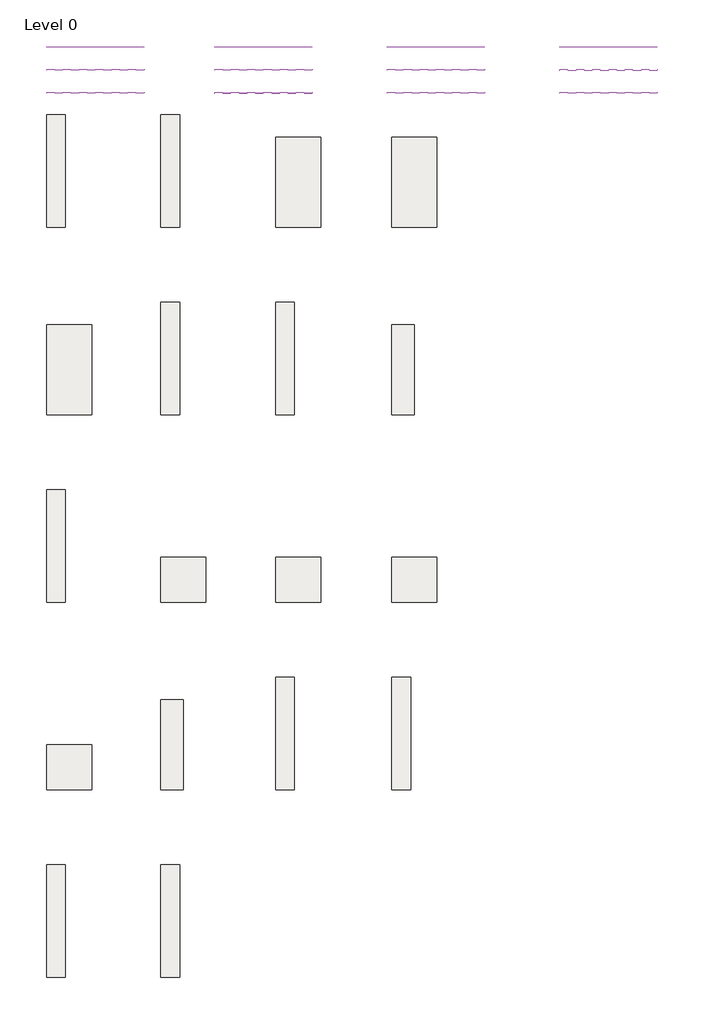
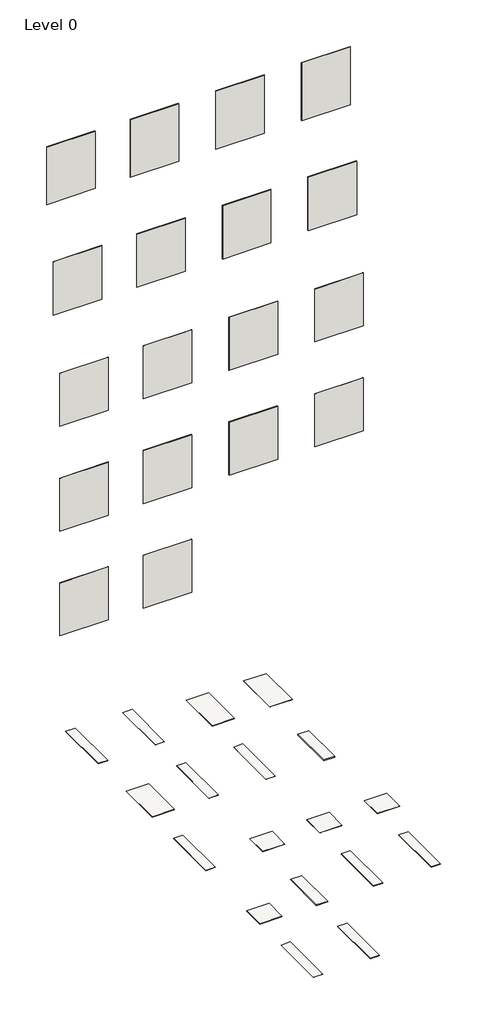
# One storey: 18 slabs, 18 walls.
"""IFC4 building model written with IfcOpenShell, lengths in millimetres."""

from ifc_helpers import new_model, si_unit, frame, origin, place, context, project, spatial, polyline, outline, extrude, element, save

model = new_model("IFC4")

# Units and contexts
model_context = context("Model", 3, world=origin())
ifc_project = project(units=[si_unit("LENGTHUNIT", "METRE", prefix="MILLI")], contexts=[model_context])

# Site, building, storey
site = spatial("IfcSite", under=ifc_project)
building = spatial("IfcBuilding", under=site)
storey = spatial("IfcBuildingStorey", under=building, Name="Level 0", Elevation=0.0)

# Slabs
placement = place(None, origin())
element("IfcSlab", 1, ObjectType="Floor_Tiles_Refin-Eik-Almond-25x150 RJ96", at=placement, inside=storey, context=model_context, shape_type="SweptSolid", body=[
    extrude(outline(polyline([(6624.3752062, 7239.4623743), (6624.3752062, 5739.4623743), (6374.3752062, 5739.4623743), (6374.3752062, 7239.4623743), (6624.3752062, 7239.4623743)])), frame((0.0, 0.0, -10.0), z_axis=(0.0, 0.0, 1.0), x_axis=(1.0, 0.0, 0.0)), (0.0, 0.0, 1.0), 10.0),
])
element("IfcSlab", 2, ObjectType="Floor_Tiles_Refin-Eik-Ash-25x150 RJ97", at=placement, inside=storey, context=model_context, shape_type="SweptSolid", body=[
    extrude(outline(polyline([(8147.3924055, 7238.4192064), (8147.3924055, 5738.4192064), (7897.3924055, 5738.4192064), (7897.3924055, 7238.4192064), (8147.3924055, 7238.4192064)])), frame((0.0, 0.0, -10.0), z_axis=(0.0, 0.0, 1.0), x_axis=(1.0, 0.0, 0.0)), (0.0, 0.0, 1.0), 10.0),
])
element("IfcSlab", 3, ObjectType="Floor_Tiles_Refin-Eik-Cannè-Almond-60x120 RK81", at=placement, inside=storey, context=model_context, shape_type="SweptSolid", body=[
    extrude(outline(polyline([(10027.1861419, 6939.4623743), (10027.1861419, 5739.4623743), (9427.1861419, 5739.4623743), (9427.1861419, 6939.4623743), (10027.1861419, 6939.4623743)])), frame((0.0, 0.0, -10.0), z_axis=(0.0, 0.0, 1.0), x_axis=(1.0, 0.0, 0.0)), (0.0, 0.0, 1.0), 10.0),
])
element("IfcSlab", 4, ObjectType="Floor_Tiles_Refin-Eik-Cannè-Honey-60x120 RK82", at=placement, inside=storey, context=model_context, shape_type="SweptSolid", body=[
    extrude(outline(polyline([(11576.9798783, 6939.4623743), (11576.9798783, 5739.4623743), (10976.9798783, 5739.4623743), (10976.9798783, 6939.4623743), (11576.9798783, 6939.4623743)])), frame((0.0, 0.0, -10.0), z_axis=(0.0, 0.0, 1.0), x_axis=(1.0, 0.0, 0.0)), (0.0, 0.0, 1.0), 10.0),
])
element("IfcSlab", 5, ObjectType="Floor_Tiles_Refin-Eik-Cannè-Natural-60x120 RK83", at=placement, inside=storey, context=model_context, shape_type="SweptSolid", body=[
    extrude(outline(polyline([(6974.3752062, 4439.4623743), (6974.3752062, 3239.4623743), (6374.3752062, 3239.4623743), (6374.3752062, 4439.4623743), (6974.3752062, 4439.4623743)])), frame((0.0, 0.0, -10.0), z_axis=(0.0, 0.0, 1.0), x_axis=(1.0, 0.0, 0.0)), (0.0, 0.0, 1.0), 10.0),
])
element("IfcSlab", 6, ObjectType="Floor_Tiles_Refin-Eik-Choco-25x150 RJ98", at=placement, inside=storey, context=model_context, shape_type="SweptSolid", body=[
    extrude(outline(polyline([(8147.3924055, 4739.4623743), (8147.3924055, 3239.4623743), (7897.3924055, 3239.4623743), (7897.3924055, 4739.4623743), (8147.3924055, 4739.4623743)])), frame((0.0, 0.0, -10.0), z_axis=(0.0, 0.0, 1.0), x_axis=(1.0, 0.0, 0.0)), (0.0, 0.0, 1.0), 10.0),
])
element("IfcSlab", 7, ObjectType="Floor_Tiles_Refin-Eik-Coffee-25x150 RJ99", at=placement, inside=storey, context=model_context, shape_type="SweptSolid", body=[
    extrude(outline(polyline([(9677.1861419, 4739.4623743), (9677.1861419, 3239.4623743), (9427.1861419, 3239.4623743), (9427.1861419, 4739.4623743), (9677.1861419, 4739.4623743)])), frame((0.0, 0.0, -10.0), z_axis=(0.0, 0.0, 1.0), x_axis=(1.0, 0.0, 0.0)), (0.0, 0.0, 1.0), 10.0),
])
element("IfcSlab", 8, ObjectType="Floor_Tiles_Refin-Eik-Honey-OUT2.0-30x120 RN20", at=placement, inside=storey, context=model_context, shape_type="SweptSolid", body=[
    extrude(outline(polyline([(11276.9798783, 4439.4623743), (11276.9798783, 3239.4623743), (10976.9798783, 3239.4623743), (10976.9798783, 4439.4623743), (11276.9798783, 4439.4623743)])), frame((0.0, 0.0, -21.0), z_axis=(0.0, 0.0, 1.0), x_axis=(1.0, 0.0, 0.0)), (0.0, 0.0, 1.0), 21.0),
])
element("IfcSlab", 9, ObjectType="Floor_Tiles_Refin-Eik-Honey-25x150 RK00", at=placement, inside=storey, context=model_context, shape_type="SweptSolid", body=[
    extrude(outline(polyline([(6624.3752062, 2239.4623743), (6624.3752062, 739.4623743), (6374.3752062, 739.4623743), (6374.3752062, 2239.4623743), (6624.3752062, 2239.4623743)])), frame((0.0, 0.0, -10.0), z_axis=(0.0, 0.0, 1.0), x_axis=(1.0, 0.0, 0.0)), (0.0, 0.0, 1.0), 10.0),
])
element("IfcSlab", 10, ObjectType="Floor_Tiles_Refin-Eik-Leaf-Almond-60x60 RL61", at=placement, inside=storey, context=model_context, shape_type="SweptSolid", body=[
    extrude(outline(polyline([(8497.3924055, 1339.4623743), (8497.3924055, 739.4623743), (7897.3924055, 739.4623743), (7897.3924055, 1339.4623743), (8497.3924055, 1339.4623743)])), frame((0.0, 0.0, -10.0), z_axis=(0.0, 0.0, 1.0), x_axis=(1.0, 0.0, 0.0)), (0.0, 0.0, 1.0), 10.0),
])
element("IfcSlab", 11, ObjectType="Floor_Tiles_Refin-Eik-Leaf-Honey-60x60 RL62", at=placement, inside=storey, context=model_context, shape_type="SweptSolid", body=[
    extrude(outline(polyline([(10027.1861419, 1339.4623743), (10027.1861419, 739.4623743), (9427.1861419, 739.4623743), (9427.1861419, 1339.4623743), (10027.1861419, 1339.4623743)])), frame((0.0, 0.0, -10.0), z_axis=(0.0, 0.0, 1.0), x_axis=(1.0, 0.0, 0.0)), (0.0, 0.0, 1.0), 10.0),
])
element("IfcSlab", 12, ObjectType="Floor_Tiles_Refin-Eik-Leaf-Natural-60x60 RL63", at=placement, inside=storey, context=model_context, shape_type="SweptSolid", body=[
    extrude(outline(polyline([(11576.9798783, 1339.4623743), (11576.9798783, 739.4623743), (10976.9798783, 739.4623743), (10976.9798783, 1339.4623743), (11576.9798783, 1339.4623743)])), frame((0.0, 0.0, -10.0), z_axis=(0.0, 0.0, 1.0), x_axis=(1.0, 0.0, 0.0)), (0.0, 0.0, 1.0), 10.0),
])
element("IfcSlab", 13, ObjectType="Floor_Tiles_Refin-Eik-Leaf-Nut-60x60 RL64", at=placement, inside=storey, context=model_context, shape_type="SweptSolid", body=[
    extrude(outline(polyline([(6974.3752062, -1160.5376257), (6974.3752062, -1760.5376257), (6374.3752062, -1760.5376257), (6374.3752062, -1160.5376257), (6974.3752062, -1160.5376257)])), frame((0.0, 0.0, -10.0), z_axis=(0.0, 0.0, 1.0), x_axis=(1.0, 0.0, 0.0)), (0.0, 0.0, 1.0), 10.0),
])
element("IfcSlab", 14, ObjectType="Floor_Tiles_Refin-Eik-Natural-OUT2.0-30x120 RN21", at=placement, inside=storey, context=model_context, shape_type="SweptSolid", body=[
    extrude(outline(polyline([(8197.3924055, -560.5376257), (8197.3924055, -1760.5376257), (7897.3924055, -1760.5376257), (7897.3924055, -560.5376257), (8197.3924055, -560.5376257)])), frame((0.0, 0.0, -21.0), z_axis=(0.0, 0.0, 1.0), x_axis=(1.0, 0.0, 0.0)), (0.0, 0.0, 1.0), 21.0),
])
element("IfcSlab", 15, ObjectType="Floor_Tiles_Refin-Eik-Natural-25x150 RK01", at=placement, inside=storey, context=model_context, shape_type="SweptSolid", body=[
    extrude(outline(polyline([(9677.1861419, -260.5376257), (9677.1861419, -1760.5376257), (9427.1861419, -1760.5376257), (9427.1861419, -260.5376257), (9677.1861419, -260.5376257)])), frame((0.0, 0.0, -10.0), z_axis=(0.0, 0.0, 1.0), x_axis=(1.0, 0.0, 0.0)), (0.0, 0.0, 1.0), 10.0),
])
element("IfcSlab", 16, ObjectType="Floor_Tiles_Refin-Eik-Nut-25x150 RK02", at=placement, inside=storey, context=model_context, shape_type="SweptSolid", body=[
    extrude(outline(polyline([(11226.9798783, -260.5376257), (11226.9798783, -1760.5376257), (10976.9798783, -1760.5376257), (10976.9798783, -260.5376257), (11226.9798783, -260.5376257)])), frame((0.0, 0.0, -10.0), z_axis=(0.0, 0.0, 1.0), x_axis=(1.0, 0.0, 0.0)), (0.0, 0.0, 1.0), 10.0),
])
element("IfcSlab", 17, ObjectType="Floor_Tiles_Refin-Eik-Rice-25x150 RK03", at=placement, inside=storey, context=model_context, shape_type="SweptSolid", body=[
    extrude(outline(polyline([(6624.3752062, -2760.5376257), (6624.3752062, -4260.5376257), (6374.3752062, -4260.5376257), (6374.3752062, -2760.5376257), (6624.3752062, -2760.5376257)])), frame((0.0, 0.0, -10.0), z_axis=(0.0, 0.0, 1.0), x_axis=(1.0, 0.0, 0.0)), (0.0, 0.0, 1.0), 10.0),
])
element("IfcSlab", 18, ObjectType="Floor_Tiles_Refin-Eik-Sand-25x150 RK04", at=placement, inside=storey, context=model_context, shape_type="SweptSolid", body=[
    extrude(outline(polyline([(8147.3924055, -2760.5376257), (8147.3924055, -4260.5376257), (7897.3924055, -4260.5376257), (7897.3924055, -2760.5376257), (8147.3924055, -2760.5376257)])), frame((0.0, 0.0, -10.0), z_axis=(0.0, 0.0, 1.0), x_axis=(1.0, 0.0, 0.0)), (0.0, 0.0, 1.0), 10.0),
])

# Walls
element("IfcWall", 19, ObjectType="Wall_Tiles_Refin-Eik-Ash-25x150 RJ97", at=placement, inside=storey, context=model_context, shape_type="SweptSolid", body=[
    extrude(outline(polyline([(9914.3752062, 8132.3838631), (8614.3752062, 8132.3838631), (8614.3752062, 8142.3838631), (9914.3752062, 8142.3838631), (9914.3752062, 8132.3838631)])), frame((0.0, 0.0, 14387.6770443), z_axis=(0.0, 0.0, 1.0), x_axis=(1.0, 0.0, 0.0)), (0.0, 0.0, 1.0), 1641.7417352),
])
element("IfcWall", 20, ObjectType="Wall_Tiles_Refin-Eik-Canné-Almond-60x120 RK81", at=placement, inside=storey, context=model_context, shape_type="SweptSolid", body=[
    extrude(outline(polyline([(12214.3752062, 8132.3838631), (10914.3752062, 8132.3838631), (10914.3752062, 8142.3838631), (12214.3752062, 8142.3838631), (12214.3752062, 8132.3838631)])), frame((0.0, 0.0, 14387.6770443), z_axis=(0.0, 0.0, 1.0), x_axis=(1.0, 0.0, 0.0)), (0.0, 0.0, 1.0), 1641.7417352),
])
element("IfcWall", 21, ObjectType="Wall_Tiles_Refin-Eik-Almond-25x150 RJ96", at=placement, inside=storey, context=model_context, shape_type="SweptSolid", body=[
    extrude(outline(polyline([(7674.3752062, 8132.3838631), (6374.3752062, 8132.3838631), (6374.3752062, 8142.3838631), (7674.3752062, 8142.3838631), (7674.3752062, 8132.3838631)])), frame((0.0, 0.0, 14403.7267346), z_axis=(0.0, 0.0, 1.0), x_axis=(1.0, 0.0, 0.0)), (0.0, 0.0, 1.0), 1625.692045),
])
element("IfcWall", 22, ObjectType="Wall_Tiles_Refin-Eik-Canné-Natural-60x120 RK83", at=placement, inside=storey, context=model_context, shape_type="SweptSolid", body=[
    extrude(outline(polyline([(7674.3752062, 7827.3838631), (6374.3752062, 7827.3838631), (6374.3752062, 7837.3838631), (7674.3752062, 7837.3838631), (7674.3752062, 7827.3838631)])), frame((0.0, 0.0, 11452.5436262), z_axis=(0.0, 0.0, 1.0), x_axis=(1.0, 0.0, 0.0)), (0.0, 0.0, 1.0), 1513.1985566),
])
element("IfcWall", 23, ObjectType="Wall_Tiles_Refin-Eik-Choco-25x150 RJ98", at=placement, inside=storey, context=model_context, shape_type="SweptSolid", body=[
    extrude(outline(polyline([(9914.3752062, 7827.3838631), (8614.3752062, 7827.3838631), (8614.3752062, 7837.3838631), (9914.3752062, 7837.3838631), (9914.3752062, 7827.3838631)])), frame((0.0, 0.0, 11452.5436262), z_axis=(0.0, 0.0, 1.0), x_axis=(1.0, 0.0, 0.0)), (0.0, 0.0, 1.0), 1513.1985566),
])
element("IfcWall", 24, ObjectType="Wall_Tiles_Refin-Eik-Coffee-25x150 RJ99", at=placement, inside=storey, context=model_context, shape_type="SweptSolid", body=[
    extrude(outline(polyline([(12214.3752062, 7827.3838631), (10914.3752062, 7827.3838631), (10914.3752062, 7837.3838631), (12214.3752062, 7837.3838631), (12214.3752062, 7827.3838631)])), frame((0.0, 0.0, 11452.5436262), z_axis=(0.0, 0.0, 1.0), x_axis=(1.0, 0.0, 0.0)), (0.0, 0.0, 1.0), 1513.1985566),
])
element("IfcWall", 25, ObjectType="Wall_Tiles_Refin-Eik-Honey-25x150 RK00", at=placement, inside=storey, context=model_context, shape_type="SweptSolid", body=[
    extrude(outline(polyline([(7674.3752062, 7522.3838631), (6374.3752062, 7522.3838631), (6374.3752062, 7532.3838631), (7674.3752062, 7532.3838631), (7674.3752062, 7522.3838631)])), frame((0.0, 0.0, 8479.1027214), z_axis=(0.0, 0.0, 1.0), x_axis=(1.0, 0.0, 0.0)), (0.0, 0.0, 1.0), 1502.5740159),
])
element("IfcWall", 26, ObjectType="Wall_Tiles_Refin-Eik-Honey-OUT2.0-30x120 RN20", at=placement, inside=storey, context=model_context, shape_type="SweptSolid", body=[
    extrude(outline(polyline([(14514.3752062, 7821.8838631), (13214.3752062, 7821.8838631), (13214.3752062, 7842.8838631), (14514.3752062, 7842.8838631), (14514.3752062, 7821.8838631)])), frame((0.0, 0.0, 11452.5436262), z_axis=(0.0, 0.0, 1.0), x_axis=(1.0, 0.0, 0.0)), (0.0, 0.0, 1.0), 1513.1985566),
])
element("IfcWall", 27, ObjectType="Wall_Tiles_Refin-Eik-Canné-Honey-60x120 RK82", at=placement, inside=storey, context=model_context, shape_type="SweptSolid", body=[
    extrude(outline(polyline([(14514.3752062, 8132.3838631), (13214.3752062, 8132.3838631), (13214.3752062, 8142.3838631), (14514.3752062, 8142.3838631), (14514.3752062, 8132.3838631)])), frame((0.0, 0.0, 14387.6770443), z_axis=(0.0, 0.0, 1.0), x_axis=(1.0, 0.0, 0.0)), (0.0, 0.0, 1.0), 1641.7417352),
])
element("IfcWall", 28, ObjectType="Wall_Tiles_Refin-Eik-Leaf-Almond-60x60 RL61", at=placement, inside=storey, context=model_context, shape_type="SweptSolid", body=[
    extrude(outline(polyline([(9914.3752062, 7522.3838631), (8614.3752062, 7522.3838631), (8614.3752062, 7532.3838631), (9914.3752062, 7532.3838631), (9914.3752062, 7522.3838631)])), frame((0.0, 0.0, 8479.1027214), z_axis=(0.0, 0.0, 1.0), x_axis=(1.0, 0.0, 0.0)), (0.0, 0.0, 1.0), 1502.5740159),
])
element("IfcWall", 29, ObjectType="Wall_Tiles_Refin-Eik-Leaf-Honey-60x60 RL62", at=placement, inside=storey, context=model_context, shape_type="SweptSolid", body=[
    extrude(outline(polyline([(12214.3752062, 7522.3838631), (10914.3752062, 7522.3838631), (10914.3752062, 7532.3838631), (12214.3752062, 7532.3838631), (12214.3752062, 7522.3838631)])), frame((0.0, 0.0, 8479.1027214), z_axis=(0.0, 0.0, 1.0), x_axis=(1.0, 0.0, 0.0)), (0.0, 0.0, 1.0), 1502.5740159),
])
element("IfcWall", 30, ObjectType="Wall_Tiles_Refin-Eik-Leaf-Natural-60x60 RL63", at=placement, inside=storey, context=model_context, shape_type="SweptSolid", body=[
    extrude(outline(polyline([(14514.3752062, 7522.3838631), (13214.3752062, 7522.3838631), (13214.3752062, 7532.3838631), (14514.3752062, 7532.3838631), (14514.3752062, 7522.3838631)])), frame((0.0, 0.0, 8479.1027214), z_axis=(0.0, 0.0, 1.0), x_axis=(1.0, 0.0, 0.0)), (0.0, 0.0, 1.0), 1502.5740159),
])
element("IfcWall", 31, ObjectType="Wall_Tiles_Refin-Eik-Leaf-Nut-60x60 RL64", at=placement, inside=storey, context=model_context, shape_type="SweptSolid", body=[
    extrude(outline(polyline([(7674.3752062, 7522.3838631), (6374.3752062, 7522.3838631), (6374.3752062, 7532.3838631), (7674.3752062, 7532.3838631), (7674.3752062, 7522.3838631)])), frame((0.0, 0.0, 5505.6618166), z_axis=(0.0, 0.0, 1.0), x_axis=(1.0, 0.0, 0.0)), (0.0, 0.0, 1.0), 1502.5740159),
])
element("IfcWall", 32, ObjectType="Wall_Tiles_Refin-Eik-Natural-OUT2.0-30x120 RN21", at=placement, inside=storey, context=model_context, shape_type="SweptSolid", body=[
    extrude(outline(polyline([(9914.3752062, 7516.8838631), (8614.3752062, 7516.8838631), (8614.3752062, 7537.8838631), (9914.3752062, 7537.8838631), (9914.3752062, 7516.8838631)])), frame((0.0, 0.0, 5505.6618166), z_axis=(0.0, 0.0, 1.0), x_axis=(1.0, 0.0, 0.0)), (0.0, 0.0, 1.0), 1502.5740159),
])
element("IfcWall", 33, ObjectType="Wall_Tiles_Refin-Eik-Natural-25x150 RK01", at=placement, inside=storey, context=model_context, shape_type="SweptSolid", body=[
    extrude(outline(polyline([(12214.3752062, 7522.3838631), (10914.3752062, 7522.3838631), (10914.3752062, 7532.3838631), (12214.3752062, 7532.3838631), (12214.3752062, 7522.3838631)])), frame((0.0, 0.0, 5505.6618166), z_axis=(0.0, 0.0, 1.0), x_axis=(1.0, 0.0, 0.0)), (0.0, 0.0, 1.0), 1502.5740159),
])
element("IfcWall", 34, ObjectType="Wall_Tiles_Refin-Eik-Nut-25x150 RK02", at=placement, inside=storey, context=model_context, shape_type="SweptSolid", body=[
    extrude(outline(polyline([(14514.3752062, 7522.3838631), (13214.3752062, 7522.3838631), (13214.3752062, 7532.3838631), (14514.3752062, 7532.3838631), (14514.3752062, 7522.3838631)])), frame((0.0, 0.0, 5505.6618166), z_axis=(0.0, 0.0, 1.0), x_axis=(1.0, 0.0, 0.0)), (0.0, 0.0, 1.0), 1502.5740159),
])
element("IfcWall", 35, ObjectType="Wall_Tiles_Refin-Eik-Rice-25x150 RK03", at=placement, inside=storey, context=model_context, shape_type="SweptSolid", body=[
    extrude(outline(polyline([(7674.3752062, 7522.3838631), (6374.3752062, 7522.3838631), (6374.3752062, 7532.3838631), (7674.3752062, 7532.3838631), (7674.3752062, 7522.3838631)])), frame((0.0, 0.0, 2532.2209118), z_axis=(0.0, 0.0, 1.0), x_axis=(1.0, 0.0, 0.0)), (0.0, 0.0, 1.0), 1502.5740159),
])
element("IfcWall", 36, ObjectType="Wall_Tiles_Refin-Eik-Sand-25x150 RK04", at=placement, inside=storey, context=model_context, shape_type="SweptSolid", body=[
    extrude(outline(polyline([(9914.3752062, 7522.3838631), (8614.3752062, 7522.3838631), (8614.3752062, 7532.3838631), (9914.3752062, 7532.3838631), (9914.3752062, 7522.3838631)])), frame((0.0, 0.0, 2532.2209118), z_axis=(0.0, 0.0, 1.0), x_axis=(1.0, 0.0, 0.0)), (0.0, 0.0, 1.0), 1502.5740159),
])

save(model, "model.ifc")
